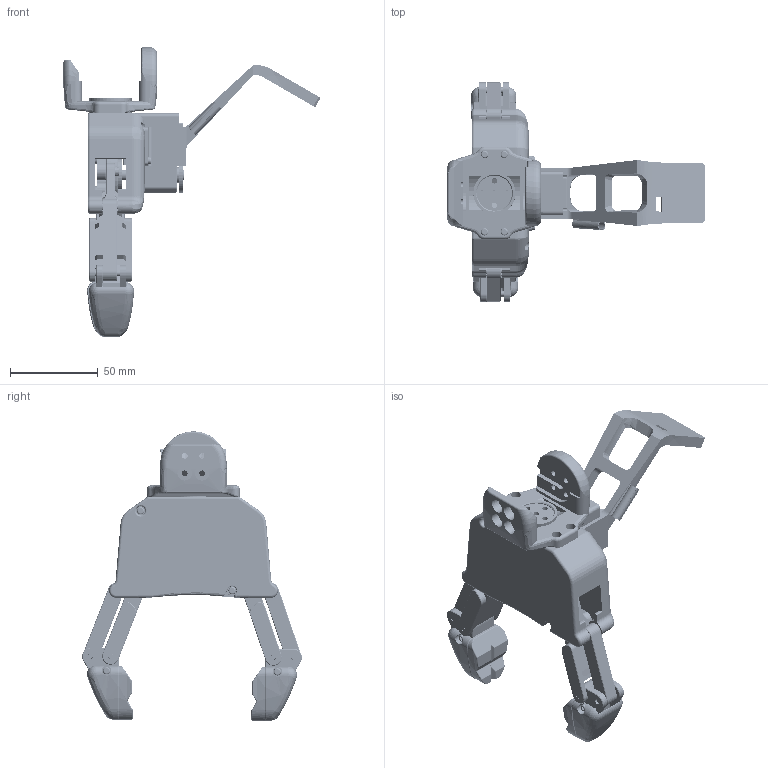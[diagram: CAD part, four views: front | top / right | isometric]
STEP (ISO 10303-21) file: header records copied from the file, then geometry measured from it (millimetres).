
FILE_DESCRIPTION(/* description */ (''),/* implementation_level */ '2;1');
FILE_NAME(/* name */ 'Pincopen with GEM adaptor and u20 cam mount.step',/* time_stamp */ '2026-03-26T18:54:49Z',/* author */ (''),/* organization */ (''),/* preprocessor_version */ 'ST-DEVELOPER v20.1',/* originating_system */ 'Autodesk Translation Framework v14.24.0.0',/* authorisation */ '');
FILE_SCHEMA (('AUTOMOTIVE_DESIGN { 1 0 10303 214 3 1 1 }'));
Products named in the file (30): GEM - rot90 wrist; PincOpen; Top_Plate; Bottom_Plate; Interface_ARM100; Tip <1>; Tip <2>; Removable_Tip; Distal_Shell; Tip_Support; Cam; STS32155 <1>; passive_palonier; WJ-WK00-0123MIDDLECASE_56; WJ-WK00-0122TOPCABINETCASE_95; WJ-WK00-0124BOTTOMCASE_45; drive_palonier; Internal_Rod; Driving_Rod; External_Rod; Hexalobular socket cheese head screw M3x0.50 x 10; Parallel Pin 3 x 16; Parallel Pin 3 x 24; bague_3x6x5; Distal_Rod; Brass insert M3; STD00333_plast_tcb_torx_2.5x8; Camera_basement; link7; link6_connector
Assembly tree (70 placements, depth 4):
  GEM - rot90 wrist
    PincOpen
      Driving_Rod  x2
      Hexalobular socket cheese head screw M3x0.50 x 10  x4
      STD00333_plast_tcb_torx_2.5x8  x14
      Parallel Pin 3 x 16  x4
      Parallel Pin 3 x 24  x4
      bague_3x6x5  x4
      Top_Plate
      Bottom_Plate
      Internal_Rod  x2
      Distal_Rod  x2
      Brass insert M3  x4
      External_Rod  x2
      Interface_ARM100
      Tip <1>
        Tip_Support
        Distal_Shell
        Removable_Tip
        STD00333_plast_tcb_torx_2.5x8  x3
      Tip <2>
        Removable_Tip
        Distal_Shell
        Tip_Support
        STD00333_plast_tcb_torx_2.5x8  x3
      Cam
      STS32155 <1>
        passive_palonier
        WJ-WK00-0123MIDDLECASE_56
        WJ-WK00-0122TOPCABINETCASE_95
        WJ-WK00-0124BOTTOMCASE_45
        drive_palonier
    Camera_basement
    link7
      link6_connector
Bounding box: 146.15 x 125.01 x 164.46 mm (x, y, z)
Volume: 177431.2 mm3; surface area: 121038.4 mm2
Topology: 67 solids, 67 shells, 3843 faces, 9199 edges, 5554 vertices
Faces by surface type: cylinder 1279, bspline 1177, plane 1056, cone 218, torus 78, sphere 35
Full cylindrical faces by diameter (mm): 1.6 x118, 1.623 x13, 2 x4, 2.05 x16, 2.074 x9, 2.3 x2, 2.5 x39, 2.6 x10, 2.7 x16, 2.8 x8, 3 x35, 3.1 x8, 3.2 x12, 3.25 x6, 3.26 x8, 4 x10, 4.2 x32, 5 x5, 5.1 x2, 5.2 x2, 5.5 x16, 6 x5, 6.1 x7, 6.5 x6, 8 x1, 8.26 x8, 9 x1, 10 x2, 10.5 x1, 11.5 x1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
Entity records: 120804 total; most frequent: CARTESIAN_POINT 67644, ORIENTED_EDGE 11440, DIRECTION 10074, EDGE_CURVE 5720, AXIS2_PLACEMENT_3D 3723, VERTEX_POINT 3606, LINE 2628, VECTOR 2628
